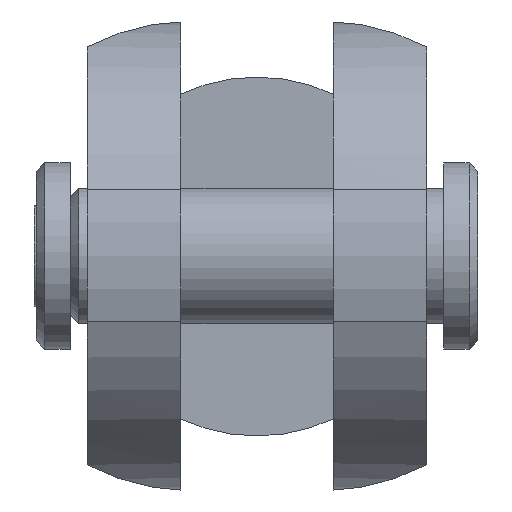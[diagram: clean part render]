
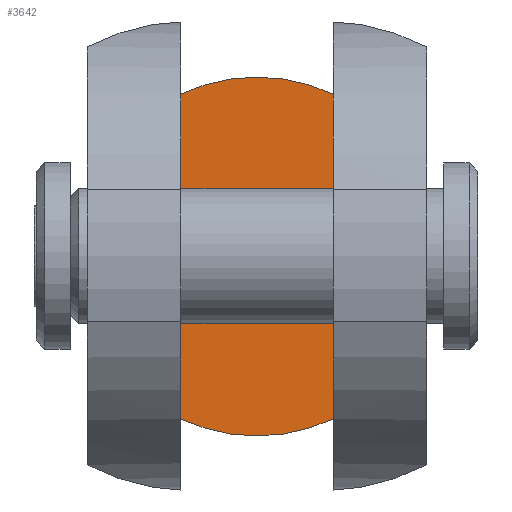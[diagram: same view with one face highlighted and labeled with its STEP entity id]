
A CAD part, top view. The second image highlights one B-rep face of the part: STEP entity #3642.
In plain terms, the highlighted planar face has unit normal (0, 0, 1).
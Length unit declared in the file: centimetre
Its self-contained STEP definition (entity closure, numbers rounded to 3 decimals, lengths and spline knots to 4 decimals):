
#167=PLANE('',#3847);
#581=LINE('',#5994,#943);
#582=LINE('',#5996,#944);
#943=VECTOR('',#4581,3.8257);
#944=VECTOR('',#4584,3.8257);
#1187=FACE_OUTER_BOUND('',#1411,.T.);
#1411=EDGE_LOOP('',(#3164,#3165,#3166,#3167));
#1478=CIRCLE('',#3702,2.114);
#1479=CIRCLE('',#3703,2.114);
#1542=VERTEX_POINT('',#4879);
#1543=VERTEX_POINT('',#4883);
#1548=VERTEX_POINT('',#4911);
#1549=VERTEX_POINT('',#4915);
#1873=EDGE_CURVE('',#1542,#1543,#1478,.T.);
#1879=EDGE_CURVE('',#1548,#1549,#1479,.T.);
#2274=EDGE_CURVE('',#1549,#1542,#581,.T.);
#2275=EDGE_CURVE('',#1548,#1543,#582,.T.);
#3164=ORIENTED_EDGE('',*,*,#1879,.F.);
#3165=ORIENTED_EDGE('',*,*,#2275,.T.);
#3166=ORIENTED_EDGE('',*,*,#1873,.F.);
#3167=ORIENTED_EDGE('',*,*,#2274,.F.);
#3642=ADVANCED_FACE('',(#1187),#167,.F.);
#3702=AXIS2_PLACEMENT_3D('',#4884,#3957,#3958);
#3703=AXIS2_PLACEMENT_3D('',#4916,#3959,#3960);
#3847=AXIS2_PLACEMENT_3D('',#5995,#4582,#4583);
#3957=DIRECTION('center_axis',(0.,0.,
-1.));
#3958=DIRECTION('ref_axis',(0.,-1.,0.));
#3959=DIRECTION('center_axis',(0.,0.,
-1.));
#3960=DIRECTION('ref_axis',(0.,-1.,0.));
#4581=DIRECTION('',(0.,1.,0.));
#4582=DIRECTION('center_axis',(0.,0.,
-1.));
#4583=DIRECTION('ref_axis',(-1.,0.,0.));
#4584=DIRECTION('',(0.,1.,0.));
#4879=CARTESIAN_POINT('',(-0.9,1.9128,-3.7));
#4883=CARTESIAN_POINT('',(0.9,1.9128,-3.7));
#4884=CARTESIAN_POINT('Origin',(0.,0.,
-3.7));
#4911=CARTESIAN_POINT('',(0.9,-1.9128,-3.7));
#4915=CARTESIAN_POINT('',(-0.9,-1.9128,-3.7));
#4916=CARTESIAN_POINT('Origin',(0.,0.,
-3.7));
#5994=CARTESIAN_POINT('',(-0.9,0.,-3.7));
#5995=CARTESIAN_POINT('Origin',(0.9,0.,-3.7));
#5996=CARTESIAN_POINT('',(0.9,0.,-3.7));
